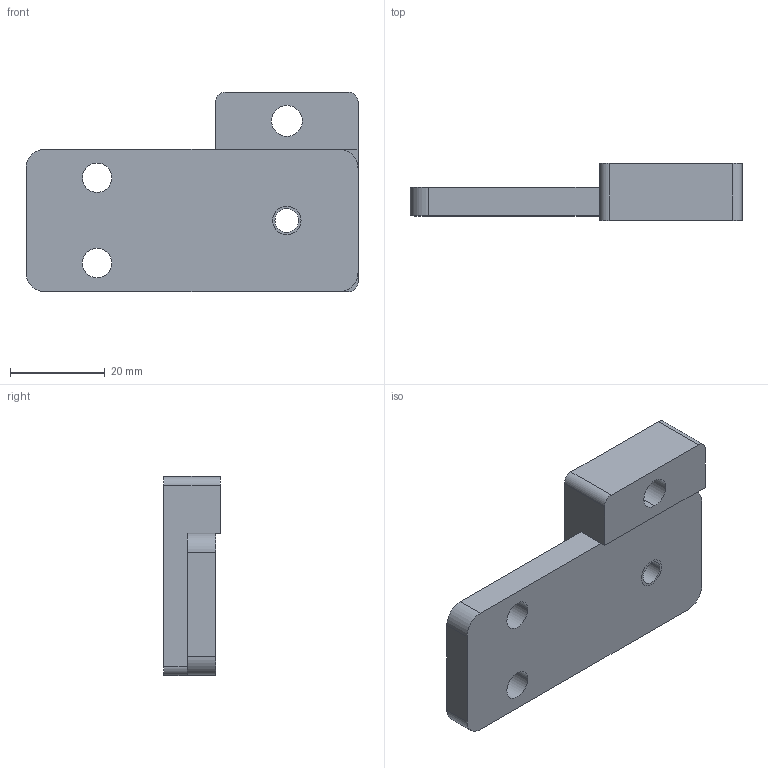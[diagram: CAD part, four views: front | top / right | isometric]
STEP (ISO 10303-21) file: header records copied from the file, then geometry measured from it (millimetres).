
FILE_DESCRIPTION((''),'2;1');
FILE_NAME('FIPA3045S_ASM','2002-12-27T',('Lipro doo'),('Lipro d.o.o.'),'PRO/ENGINEER BY PARAMETRIC TECHNOLOGY CORPORATION, 2001150','PRO/ENGINEER BY PARAMETRIC TECHNOLOGY CORPORATION, 2001150','');
FILE_SCHEMA(('CONFIG_CONTROL_DESIGN'));
Length unit declared in the file: millimetre
Products named in the file (3): FIPA_2; FIPA_1; FIPA3045S_ASM
Assembly tree (2 placements, depth 2):
  FIPA3045S_ASM
    FIPA_2
    FIPA_1
Bounding box: 70 x 12 x 42 mm (x, y, z)
Volume: 19692.1 mm3; surface area: 9558.6 mm2
Topology: 2 solids, 3 shells, 38 faces, 100 edges, 66 vertices
Faces by surface type: cylinder 20, plane 16, cone 2
Entity records: 1313 total; most frequent: DIRECTION 232, CARTESIAN_POINT 211, ORIENTED_EDGE 196, EDGE_CURVE 100, AXIS2_PLACEMENT_3D 87, VERTEX_POINT 66, VECTOR 58, LINE 58
